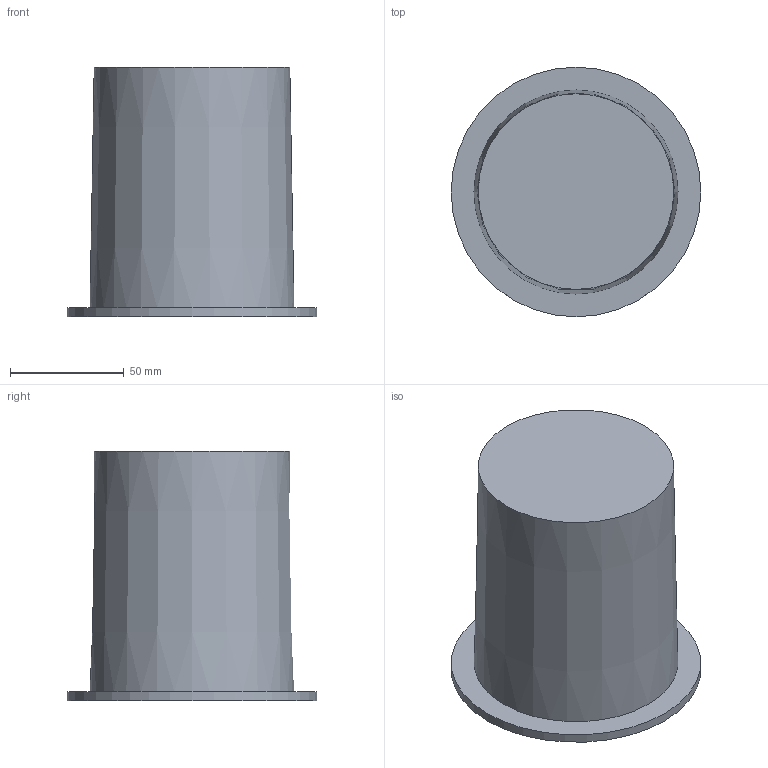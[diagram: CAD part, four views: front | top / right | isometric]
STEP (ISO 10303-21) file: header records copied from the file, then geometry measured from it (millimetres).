
FILE_DESCRIPTION(('Open CASCADE Model'),'2;1');
FILE_NAME('Open CASCADE Shape Model','2026-07-10T11:14:36',('Author'),( 'Open CASCADE'),'Open CASCADE STEP processor 7.9','Open CASCADE 7.9' ,'Unknown');
FILE_SCHEMA(('AUTOMOTIVE_DESIGN { 1 0 10303 214 1 1 1 1 }'));
Length unit declared in the file: millimetre
Products named in the file (1): Open CASCADE STEP translator 7.9 8
Bounding box: 110 x 110 x 110 mm (x, y, z)
Volume: 164330.9 mm3; surface area: 85174.7 mm2
Topology: 1 solids, 2 shells, 8 faces, 9 edges, 6 vertices
Faces by surface type: plane 5, cone 2, cylinder 1
Full cylindrical faces by diameter (mm): 110 x1
Entity records: 284 total; most frequent: DIRECTION 51, CARTESIAN_POINT 42, ORIENTED_EDGE 18, PCURVE 18, DEFINITIONAL_REPRESENTATION 18, AXIS2_PLACEMENT_3D 15, LINE 15, VECTOR 15
